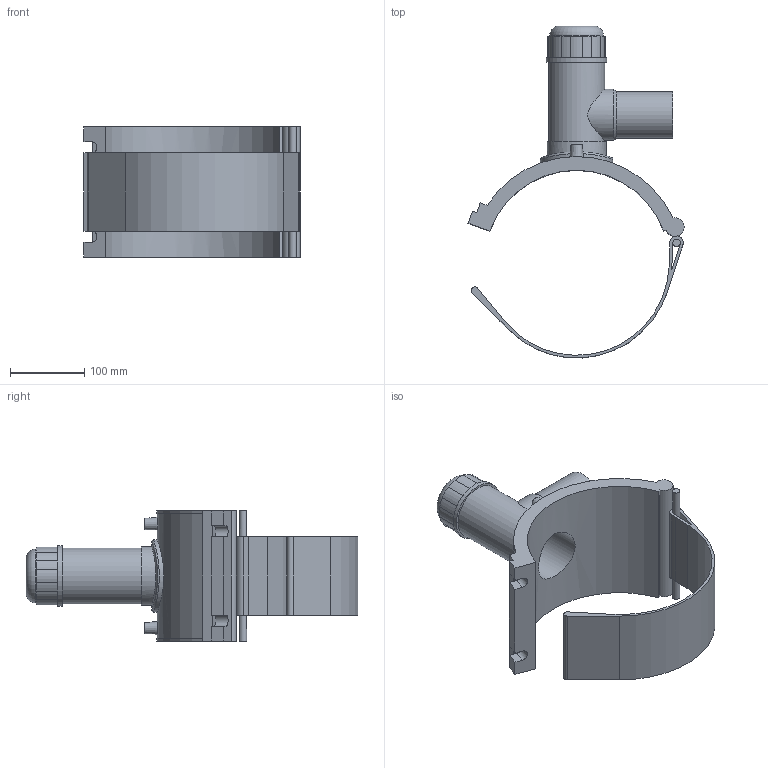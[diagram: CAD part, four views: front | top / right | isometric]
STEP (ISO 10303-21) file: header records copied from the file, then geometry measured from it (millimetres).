
FILE_DESCRIPTION(/* description */ ('PLASSON TAPPING TEE SADDLE 250mm x 63mm'),/* implementation_level */ '2;1');
FILE_NAME(/* name */ 'C:\Dropbox\KIMPROJECTS-Inventor 2019\99-16-3568-Processing\ElectroFusion Fittings\491304\491304250063.stp',/* time_stamp */ '2023-03-23T11:29:05+02:00',/* author */ ('KIM'),/* organization */ (''),/* preprocessor_version */ 'ST-DEVELOPER v17.2',/* originating_system */ 'Autodesk Inventor 2019',/* authorisation */ '');
FILE_SCHEMA (('AUTOMOTIVE_DESIGN { 1 0 10303 214 3 1 1 }'));
Length unit declared in the file: millimetre
Products named in the file (1): 491304250063
Bounding box: 292.02 x 448.5 x 176 mm (x, y, z)
Volume: 1751400.7 mm3; surface area: 361810.8 mm2
Topology: 2 solids, 2 shells, 92 faces, 234 edges, 161 vertices
Faces by surface type: cylinder 44, plane 43, cone 3, bspline 1, torus 1
Full cylindrical faces by diameter (mm): 4 x2, 10 x3, 50.4 x1, 63 x1, 69.3 x1, 69.6 x1, 72.45 x1, 75.6 x1, 79.6 x1, 81.9 x1, 97.65 x1
Entity records: 3425 total; most frequent: CARTESIAN_POINT 1050, DIRECTION 506, ORIENTED_EDGE 470, EDGE_CURVE 235, AXIS2_PLACEMENT_3D 196, VERTEX_POINT 163, LINE 114, VECTOR 114
